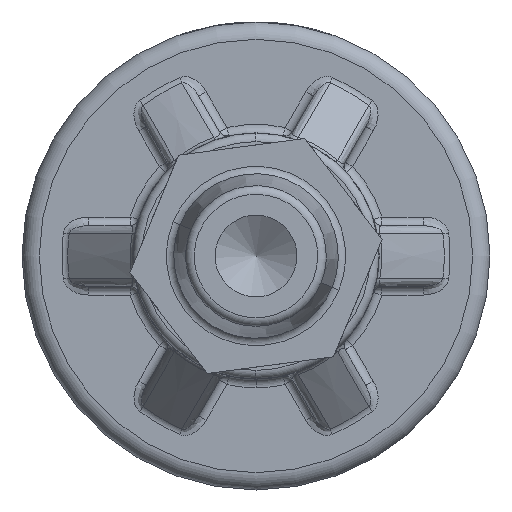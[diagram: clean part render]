
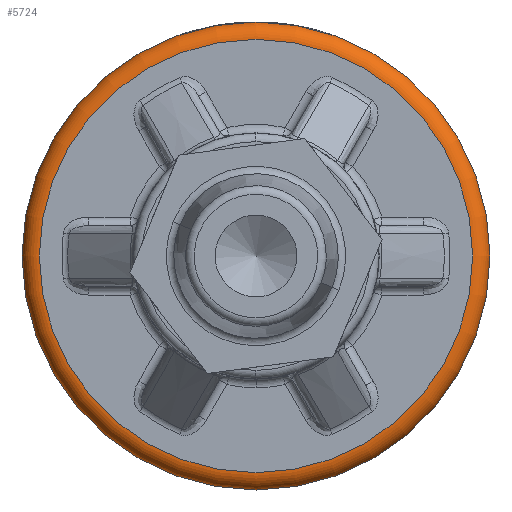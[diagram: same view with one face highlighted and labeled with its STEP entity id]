
A CAD part, left-side view. The second image highlights one B-rep face of the part: STEP entity #5724.
In plain terms, the highlighted toroidal (fillet/blend) face has major radius 6.25 mm and minor radius 0.5 mm.
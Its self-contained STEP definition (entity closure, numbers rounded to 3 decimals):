
#268=TOROIDAL_SURFACE('',#6298,6.25,0.5);
#604=FACE_OUTER_BOUND('',#990,.T.);
#990=EDGE_LOOP('',(#4631,#4632,#4633,#4634,#4635,#4636));
#1545=CIRCLE('',#6267,6.75);
#1546=CIRCLE('',#6269,6.75);
#1549=CIRCLE('',#6299,0.5);
#1550=CIRCLE('',#6300,6.25);
#1551=CIRCLE('',#6301,6.25);
#2465=VERTEX_POINT('',#18342);
#2479=VERTEX_POINT('',#18446);
#2500=VERTEX_POINT('',#19147);
#2501=VERTEX_POINT('',#19149);
#3178=EDGE_CURVE('',#2479,#2465,#1545,.T.);
#3179=EDGE_CURVE('',#2465,#2479,#1546,.T.);
#3237=EDGE_CURVE('',#2479,#2500,#1549,.T.);
#3238=EDGE_CURVE('',#2501,#2500,#1550,.T.);
#3239=EDGE_CURVE('',#2500,#2501,#1551,.T.);
#4631=ORIENTED_EDGE('',*,*,#3178,.F.);
#4632=ORIENTED_EDGE('',*,*,#3237,.T.);
#4633=ORIENTED_EDGE('',*,*,#3238,.F.);
#4634=ORIENTED_EDGE('',*,*,#3239,.F.);
#4635=ORIENTED_EDGE('',*,*,#3237,.F.);
#4636=ORIENTED_EDGE('',*,*,#3179,.F.);
#5724=ADVANCED_FACE('',(#604),#268,.T.);
#6267=AXIS2_PLACEMENT_3D('',#18448,#7471,#7472);
#6269=AXIS2_PLACEMENT_3D('',#18450,#7475,#7476);
#6298=AXIS2_PLACEMENT_3D('',#19146,#7552,#7553);
#6299=AXIS2_PLACEMENT_3D('',#19148,#7554,#7555);
#6300=AXIS2_PLACEMENT_3D('',#19150,#7556,#7557);
#6301=AXIS2_PLACEMENT_3D('',#19151,#7558,#7559);
#7471=DIRECTION('center_axis',(1.,0.,0.));
#7472=DIRECTION('ref_axis',(0.,0.,
1.));
#7475=DIRECTION('center_axis',(1.,0.,0.));
#7476=DIRECTION('ref_axis',(0.,0.,-1.));
#7552=DIRECTION('center_axis',(1.,0.,0.));
#7553=DIRECTION('ref_axis',(0.,0.,-1.));
#7554=DIRECTION('center_axis',(0.,-1.,0.));
#7555=DIRECTION('ref_axis',(0.,0.,
1.));
#7556=DIRECTION('center_axis',(-1.,0.,0.));
#7557=DIRECTION('ref_axis',(0.,0.,
-1.));
#7558=DIRECTION('center_axis',(-1.,0.,0.));
#7559=DIRECTION('ref_axis',(0.,0.,1.));
#18342=CARTESIAN_POINT('',(-3.375,0.,-6.75));
#18446=CARTESIAN_POINT('',(-3.375,0.,6.75));
#18448=CARTESIAN_POINT('Origin',(-3.375,0.,0.));
#18450=CARTESIAN_POINT('Origin',(-3.375,0.,0.));
#19146=CARTESIAN_POINT('Origin',(-3.375,0.,
0.));
#19147=CARTESIAN_POINT('',(-3.875,0.,6.25));
#19148=CARTESIAN_POINT('Origin',(-3.375,0.,
6.25));
#19149=CARTESIAN_POINT('',(-3.875,0.,-6.25));
#19150=CARTESIAN_POINT('Origin',(-3.875,0.,0.));
#19151=CARTESIAN_POINT('Origin',(-3.875,0.,0.));
